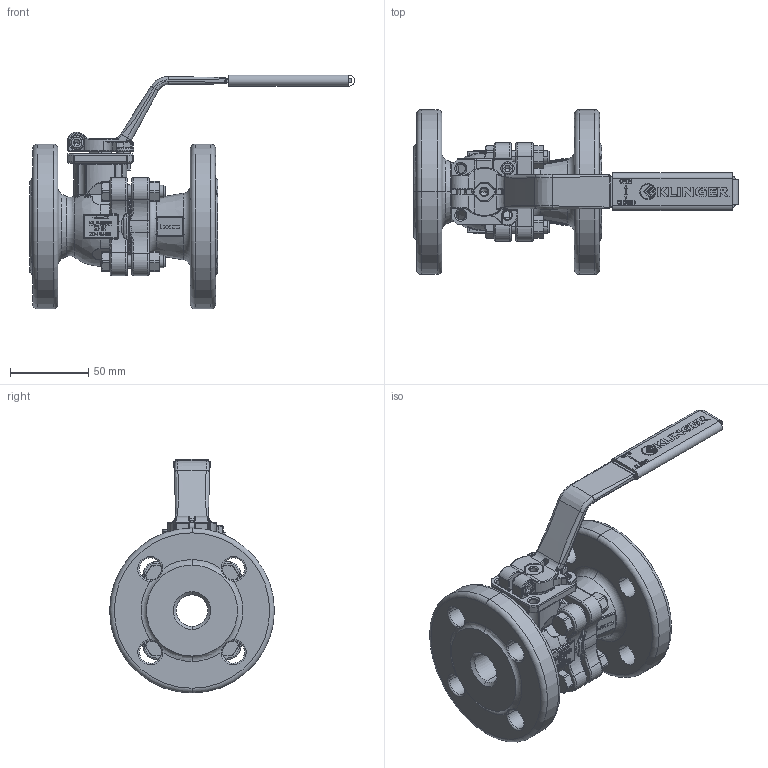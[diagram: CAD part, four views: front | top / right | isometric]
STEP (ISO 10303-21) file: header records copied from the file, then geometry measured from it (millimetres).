
FILE_DESCRIPTION((''),'2;1');
FILE_NAME('KHEFK020VFK020P040PKK','2015-08-07T',('mahrhauserh'),('RAND'),'PRO/ENGINEER BY PARAMETRIC TECHNOLOGY CORPORATION, 2013410','PRO/ENGINEER BY PARAMETRIC TECHNOLOGY CORPORATION, 2013410','');
FILE_SCHEMA(('CONFIG_CONTROL_DESIGN'));
Products named in the file (1): KHEFK020VFK020P040PKK
Bounding box: 207 x 105 x 149.05 mm (x, y, z)
Volume: 444381.9 mm3; surface area: 116210.1 mm2
Topology: 1 solids, 2 shells, 3097 faces, 8041 edges, 5042 vertices
Faces by surface type: plane 1741, cylinder 472, bspline 355, torus 278, cone 213, sphere 38
Entity records: 125396 total; most frequent: CARTESIAN_POINT 51542, ORIENTED_EDGE 16054, DIRECTION 14475, EDGE_CURVE 8027, VECTOR 5077, LINE 5077, VERTEX_POINT 5042, AXIS2_PLACEMENT_3D 4699
